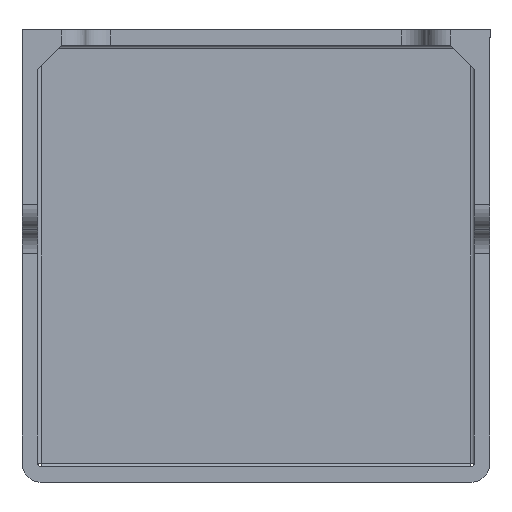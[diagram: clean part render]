
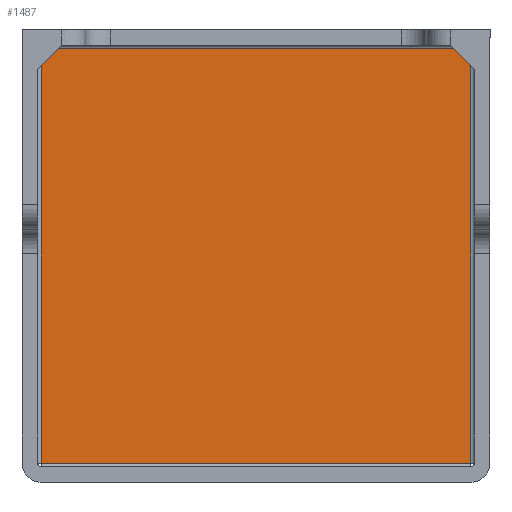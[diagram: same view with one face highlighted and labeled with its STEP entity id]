
A CAD part, front view. The second image highlights one B-rep face of the part: STEP entity #1487.
In plain terms, the highlighted planar face has unit normal (0, -1, 0).
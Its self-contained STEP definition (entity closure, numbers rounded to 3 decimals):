
#65 = CARTESIAN_POINT ( 'NONE',  ( -44.163, 37.8, 85.863 ) ) ;
#90 = CARTESIAN_POINT ( 'NONE',  ( 44.1, 37.8, 0.737 ) ) ;
#94 = ORIENTED_EDGE ( 'NONE', *, *, #577, .F. ) ;
#110 = PLANE ( 'NONE',  #928 ) ;
#128 = LINE ( 'NONE', #933, #2392 ) ;
#137 = CARTESIAN_POINT ( 'NONE',  ( -44.163, 37.8, 0.737 ) ) ;
#159 = LINE ( 'NONE', #965, #1603 ) ;
#184 = CARTESIAN_POINT ( 'NONE',  ( 44.163, 37.8, 85.863 ) ) ;
#218 = EDGE_CURVE ( 'NONE', #2497, #287, #128, .T. ) ;
#225 = DIRECTION ( 'NONE',  ( 1., 0., 0. ) ) ;
#252 = VERTEX_POINT ( 'NONE', #552 ) ;
#285 = LINE ( 'NONE', #1095, #1342 ) ;
#287 = VERTEX_POINT ( 'NONE', #65 ) ;
#332 = EDGE_CURVE ( 'NONE', #2497, #1511, #285, .T. ) ;
#370 = DIRECTION ( 'NONE',  ( 1., 0., 0. ) ) ;
#546 = CARTESIAN_POINT ( 'NONE',  ( 44.1, 37.8, 85.863 ) ) ;
#552 = CARTESIAN_POINT ( 'NONE',  ( -44.1, 37.8, 85.863 ) ) ;
#577 = EDGE_CURVE ( 'NONE', #287, #252, #1227, .T. ) ;
#582 = DIRECTION ( 'NONE',  ( -1., 0., 0. ) ) ;
#780 = DIRECTION ( 'NONE',  ( 0., 0., -1. ) ) ;
#859 = LINE ( 'NONE', #1674, #1173 ) ;
#914 = CARTESIAN_POINT ( 'NONE',  ( 0., 37.8, 0. ) ) ;
#928 = AXIS2_PLACEMENT_3D ( 'NONE', #914, #1728, #2524 ) ;
#933 = CARTESIAN_POINT ( 'NONE',  ( -44.163, 37.8, 0.737 ) ) ;
#965 = CARTESIAN_POINT ( 'NONE',  ( 0., 37.8, 85.863 ) ) ;
#986 = EDGE_CURVE ( 'NONE', #1032, #2517, #159, .T. ) ;
#1032 = VERTEX_POINT ( 'NONE', #184 ) ;
#1050 = VECTOR ( 'NONE', #582, 1000. ) ;
#1095 = CARTESIAN_POINT ( 'NONE',  ( -48.1, 37.8, 0.737 ) ) ;
#1123 = CARTESIAN_POINT ( 'NONE',  ( -44.1, 37.8, 0.737 ) ) ;
#1142 = EDGE_LOOP ( 'NONE', ( #94, #2064, #2422, #2350, #2472, #1574, #1898, #1187 ) ) ;
#1173 = VECTOR ( 'NONE', #2468, 1000. ) ;
#1187 = ORIENTED_EDGE ( 'NONE', *, *, #2582, .F. ) ;
#1227 = LINE ( 'NONE', #2032, #1387 ) ;
#1342 = VECTOR ( 'NONE', #1900, 1000. ) ;
#1374 = LINE ( 'NONE', #2176, #2098 ) ;
#1387 = VECTOR ( 'NONE', #225, 1000. ) ;
#1390 = VECTOR ( 'NONE', #780, 1000. ) ;
#1438 = VERTEX_POINT ( 'NONE', #90 ) ;
#1487 = ADVANCED_FACE ( 'NONE', ( #1919 ), #110, .T. ) ;
#1511 = VERTEX_POINT ( 'NONE', #1123 ) ;
#1574 = ORIENTED_EDGE ( 'NONE', *, *, #2594, .F. ) ;
#1591 = LINE ( 'NONE', #2386, #1050 ) ;
#1603 = VECTOR ( 'NONE', #1774, 1000. ) ;
#1629 = CARTESIAN_POINT ( 'NONE',  ( 44.163, 37.8, 0.737 ) ) ;
#1674 = CARTESIAN_POINT ( 'NONE',  ( 48.1, 37.8, 0.737 ) ) ;
#1728 = DIRECTION ( 'NONE',  ( 0., -1., 0. ) ) ;
#1733 = VERTEX_POINT ( 'NONE', #1629 ) ;
#1743 = DIRECTION ( 'NONE',  ( 0., 0., 1. ) ) ;
#1774 = DIRECTION ( 'NONE',  ( -1., 0., 0. ) ) ;
#1787 = LINE ( 'NONE', #2586, #1390 ) ;
#1898 = ORIENTED_EDGE ( 'NONE', *, *, #986, .T. ) ;
#1900 = DIRECTION ( 'NONE',  ( 1., 0., 0. ) ) ;
#1919 = FACE_OUTER_BOUND ( 'NONE', #1142, .T. ) ;
#2032 = CARTESIAN_POINT ( 'NONE',  ( -48.1, 37.8, 85.863 ) ) ;
#2064 = ORIENTED_EDGE ( 'NONE', *, *, #218, .F. ) ;
#2098 = VECTOR ( 'NONE', #370, 1000. ) ;
#2176 = CARTESIAN_POINT ( 'NONE',  ( -48.1, 37.8, 85.863 ) ) ;
#2350 = ORIENTED_EDGE ( 'NONE', *, *, #2363, .F. ) ;
#2363 = EDGE_CURVE ( 'NONE', #1438, #1511, #859, .T. ) ;
#2386 = CARTESIAN_POINT ( 'NONE',  ( 48.1, 37.8, 0.737 ) ) ;
#2392 = VECTOR ( 'NONE', #1743, 1000. ) ;
#2422 = ORIENTED_EDGE ( 'NONE', *, *, #332, .T. ) ;
#2468 = DIRECTION ( 'NONE',  ( -1., 0., 0. ) ) ;
#2472 = ORIENTED_EDGE ( 'NONE', *, *, #2603, .F. ) ;
#2497 = VERTEX_POINT ( 'NONE', #137 ) ;
#2517 = VERTEX_POINT ( 'NONE', #546 ) ;
#2524 = DIRECTION ( 'NONE',  ( 0., 0., -1. ) ) ;
#2582 = EDGE_CURVE ( 'NONE', #252, #2517, #1374, .T. ) ;
#2586 = CARTESIAN_POINT ( 'NONE',  ( 44.163, 37.8, 85.863 ) ) ;
#2594 = EDGE_CURVE ( 'NONE', #1032, #1733, #1787, .T. ) ;
#2603 = EDGE_CURVE ( 'NONE', #1733, #1438, #1591, .T. ) ;
